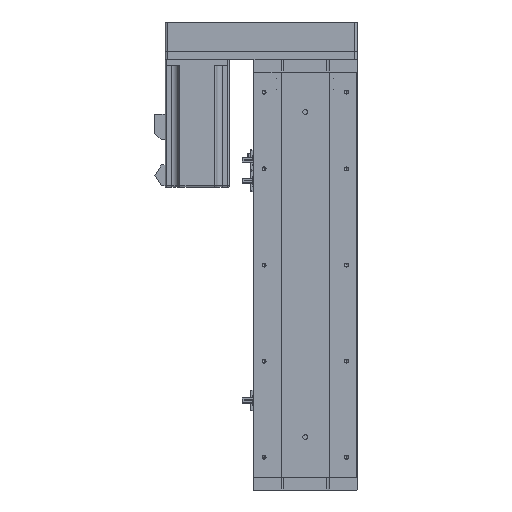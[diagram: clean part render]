
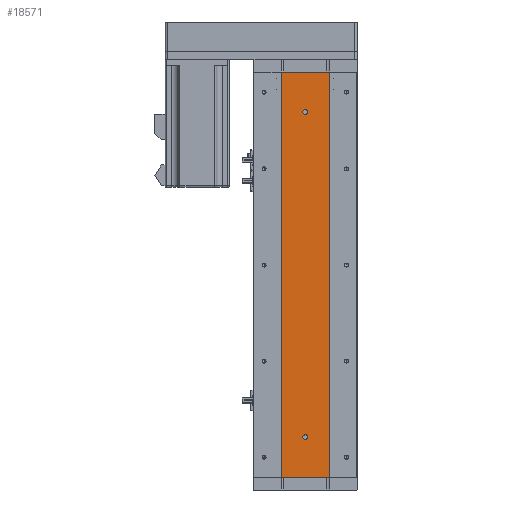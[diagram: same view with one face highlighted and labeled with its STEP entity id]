
A CAD part, left-side view. The second image highlights one B-rep face of the part: STEP entity #18571.
In plain terms, the highlighted planar face has unit normal (-1, 0, 0).
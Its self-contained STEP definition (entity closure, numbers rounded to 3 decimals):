
#686 = AXIS2_PLACEMENT_3D ( 'NONE', #27794, #7119, #31278 ) ;
#905 = EDGE_CURVE ( 'NONE', #12783, #28431, #28979, .T. ) ;
#1421 = DIRECTION ( 'NONE',  ( 0., 0., -1. ) ) ;
#1741 = DIRECTION ( 'NONE',  ( 0., -1., 0. ) ) ;
#2890 = EDGE_CURVE ( 'NONE', #28431, #36884, #7575, .T. ) ;
#3683 = CIRCLE ( 'NONE', #25497, 3. ) ;
#3978 = CARTESIAN_POINT ( 'NONE',  ( -24.994, 0., 47. ) ) ;
#4632 = CARTESIAN_POINT ( 'NONE',  ( -24.994, 0., 459. ) ) ;
#5481 = EDGE_LOOP ( 'NONE', ( #40049, #19098, #36994, #7889 ) ) ;
#5637 = FACE_BOUND ( 'NONE', #36192, .T. ) ;
#7119 = DIRECTION ( 'NONE',  ( 1., 0., 0. ) ) ;
#7343 = CARTESIAN_POINT ( 'NONE',  ( -24.994, 0., 456. ) ) ;
#7575 = LINE ( 'NONE', #43026, #43226 ) ;
#7889 = ORIENTED_EDGE ( 'NONE', *, *, #905, .T. ) ;
#8792 = AXIS2_PLACEMENT_3D ( 'NONE', #20032, #44107, #23475 ) ;
#9479 = DIRECTION ( 'NONE',  ( 0., 0., -1. ) ) ;
#9976 = CARTESIAN_POINT ( 'NONE',  ( -24.994, -29.785, 506. ) ) ;
#10118 = ORIENTED_EDGE ( 'NONE', *, *, #38463, .F. ) ;
#10152 = EDGE_CURVE ( 'NONE', #31213, #19348, #30490, .T. ) ;
#10624 = VECTOR ( 'NONE', #9479, 1000. ) ;
#10844 = DIRECTION ( 'NONE',  ( 0., 0., 1. ) ) ;
#12019 = EDGE_CURVE ( 'NONE', #12783, #14452, #34786, .T. ) ;
#12783 = VERTEX_POINT ( 'NONE', #28123 ) ;
#13588 = CARTESIAN_POINT ( 'NONE',  ( -24.994, 0., 50. ) ) ;
#14305 = DIRECTION ( 'NONE',  ( 0., -1., 0. ) ) ;
#14452 = VERTEX_POINT ( 'NONE', #9976 ) ;
#14593 = DIRECTION ( 'NONE',  ( -1., 0., 0. ) ) ;
#14826 = FACE_OUTER_BOUND ( 'NONE', #5481, .T. ) ;
#15914 = LINE ( 'NONE', #18603, #33204 ) ;
#16995 = DIRECTION ( 'NONE',  ( 0., 0., 1. ) ) ;
#18068 = FACE_BOUND ( 'NONE', #19508, .T. ) ;
#18571 = ADVANCED_FACE ( 'NONE', ( #5637, #18068, #14826 ), #30973, .F. ) ;
#18603 = CARTESIAN_POINT ( 'NONE',  ( -24.994, -29.785, 506. ) ) ;
#19098 = ORIENTED_EDGE ( 'NONE', *, *, #28785, .F. ) ;
#19348 = VERTEX_POINT ( 'NONE', #32434 ) ;
#19508 = EDGE_LOOP ( 'NONE', ( #42079, #34530 ) ) ;
#19532 = EDGE_CURVE ( 'NONE', #19635, #24171, #35186, .T. ) ;
#19635 = VERTEX_POINT ( 'NONE', #20815 ) ;
#20032 = CARTESIAN_POINT ( 'NONE',  ( -24.994, 0., 456. ) ) ;
#20815 = CARTESIAN_POINT ( 'NONE',  ( -24.994, 0., 53. ) ) ;
#21795 = CIRCLE ( 'NONE', #42074, 3. ) ;
#23475 = DIRECTION ( 'NONE',  ( 0., 0., 1. ) ) ;
#24171 = VERTEX_POINT ( 'NONE', #3978 ) ;
#25497 = AXIS2_PLACEMENT_3D ( 'NONE', #7343, #31519, #10844 ) ;
#26777 = EDGE_CURVE ( 'NONE', #24171, #19635, #21795, .T. ) ;
#27556 = CARTESIAN_POINT ( 'NONE',  ( -24.994, 29.785, 0. ) ) ;
#27794 = CARTESIAN_POINT ( 'NONE',  ( -24.994, 29.785, 506. ) ) ;
#28123 = CARTESIAN_POINT ( 'NONE',  ( -24.994, 29.785, 506. ) ) ;
#28431 = VERTEX_POINT ( 'NONE', #27556 ) ;
#28785 = EDGE_CURVE ( 'NONE', #14452, #36884, #15914, .T. ) ;
#28979 = LINE ( 'NONE', #30155, #10624 ) ;
#29099 = ORIENTED_EDGE ( 'NONE', *, *, #10152, .F. ) ;
#30155 = CARTESIAN_POINT ( 'NONE',  ( -24.994, 29.785, 506. ) ) ;
#30490 = CIRCLE ( 'NONE', #8792, 3. ) ;
#30973 = PLANE ( 'NONE',  #686 ) ;
#31213 = VERTEX_POINT ( 'NONE', #4632 ) ;
#31278 = DIRECTION ( 'NONE',  ( 0., 0., -1. ) ) ;
#31519 = DIRECTION ( 'NONE',  ( -1., 0., 0. ) ) ;
#32434 = CARTESIAN_POINT ( 'NONE',  ( -24.994, 0., 453. ) ) ;
#33204 = VECTOR ( 'NONE', #1421, 1000. ) ;
#33962 = AXIS2_PLACEMENT_3D ( 'NONE', #13588, #37705, #16995 ) ;
#34530 = ORIENTED_EDGE ( 'NONE', *, *, #26777, .F. ) ;
#34786 = LINE ( 'NONE', #41737, #42863 ) ;
#35186 = CIRCLE ( 'NONE', #33962, 3. ) ;
#35258 = CARTESIAN_POINT ( 'NONE',  ( -24.994, 0., 50. ) ) ;
#36192 = EDGE_LOOP ( 'NONE', ( #29099, #10118 ) ) ;
#36884 = VERTEX_POINT ( 'NONE', #42950 ) ;
#36994 = ORIENTED_EDGE ( 'NONE', *, *, #12019, .F. ) ;
#37705 = DIRECTION ( 'NONE',  ( -1., 0., 0. ) ) ;
#38463 = EDGE_CURVE ( 'NONE', #19348, #31213, #3683, .T. ) ;
#38721 = DIRECTION ( 'NONE',  ( 0., 0., 1. ) ) ;
#40049 = ORIENTED_EDGE ( 'NONE', *, *, #2890, .T. ) ;
#41737 = CARTESIAN_POINT ( 'NONE',  ( -24.994, 29.785, 506. ) ) ;
#42074 = AXIS2_PLACEMENT_3D ( 'NONE', #35258, #14593, #38721 ) ;
#42079 = ORIENTED_EDGE ( 'NONE', *, *, #19532, .F. ) ;
#42863 = VECTOR ( 'NONE', #14305, 1000. ) ;
#42950 = CARTESIAN_POINT ( 'NONE',  ( -24.994, -29.785, 0. ) ) ;
#43026 = CARTESIAN_POINT ( 'NONE',  ( -24.994, 29.785, 0. ) ) ;
#43226 = VECTOR ( 'NONE', #1741, 1000. ) ;
#44107 = DIRECTION ( 'NONE',  ( -1., 0., 0. ) ) ;
